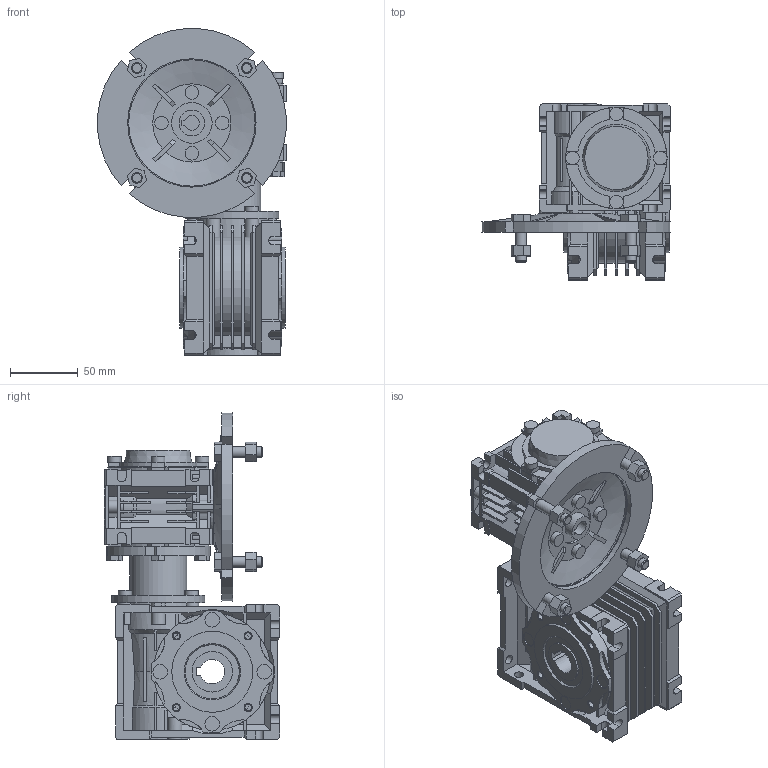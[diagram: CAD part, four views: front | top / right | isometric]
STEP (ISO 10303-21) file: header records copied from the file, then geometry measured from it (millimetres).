
FILE_DESCRIPTION(/* description */ ('STEP AP214'),/* implementation_level */ '2;1');
FILE_NAME(/* name */ 'NMRV-NMRV030-040100 (10x10)52118NO11NO00NO---(--------)',/* time_stamp */ '2024-10-22T09:47:22+02:00',/* author */ ('License CC BY-ND 4.0'),/* organization */ ('CADENAS'),/* preprocessor_version */ 'ST-DEVELOPER v19.3',/* originating_system */ 'PARTsolutions',/* authorisation */ ' ');
FILE_SCHEMA (('AUTOMOTIVE_DESIGN {1 0 10303 214 3 1 1}'));
Length unit declared in the file: millimetre
Products named in the file (13): NMRV-NMRV030-040100 (10x10)52118NO11NO00NO---(--------); 030-040100 (10x10)5214118No11No00NO---(--------)-d; 030-04050 (5x10)52118No11No00NO---d1; 030-04050 (5x10)52118No11No00T0631-d1; Gear unit 40; 040-18 (78)alc-n; VB 040-11 (11); Gear unit 30; 030-14 (63)alc-n; FT 030-040; Hollow shaft 30; VB 030-11 (11); 30-63 B5
Assembly tree (13 placements, depth 2):
  NMRV-NMRV030-040100 (10x10)52118NO11NO00NO---(--------)
    030-040100 (10x10)5214118No11No00NO---(--------)-d
    030-04050 (5x10)52118No11No00NO---d1
    030-04050 (5x10)52118No11No00T0631-d1  x2
    Gear unit 40
    040-18 (78)alc-n
    VB 040-11 (11)
    Gear unit 30
    030-14 (63)alc-n
    FT 030-040
    Hollow shaft 30
    VB 030-11 (11)
    30-63 B5
Bounding box: 139.77 x 130 x 241.77 mm (x, y, z)
Volume: 1163218.4 mm3; surface area: 307915.3 mm2
Topology: 9 solids, 16 shells, 1645 faces, 4397 edges, 2861 vertices
Faces by surface type: plane 1211, cylinder 334, cone 98, torus 2
Full cylindrical faces by diameter (mm): 3.545 x3, 4.65 x3, 4.917 x16, 5.55 x3, 6 x4, 7 x6, 8 x8, 10 x12, 10.8 x4, 16 x1, 19 x2, 23 x2, 24.8 x2, 28 x1, 30 x4, 36 x1, 37 x1, 38 x1, 40 x1, 42 x1, 47 x1, 55 x3, 60 x2, 69 x1, 75 x2, 93.5 x1, 95 x1
Entity records: 61795 total; most frequent: CARTESIAN_POINT 9445, ORIENTED_EDGE 8470, DIRECTION 8322, EDGE_CURVE 4235, LINE 3034, VECTOR 3034, VERTEX_POINT 2837, AXIS2_PLACEMENT_3D 2644
